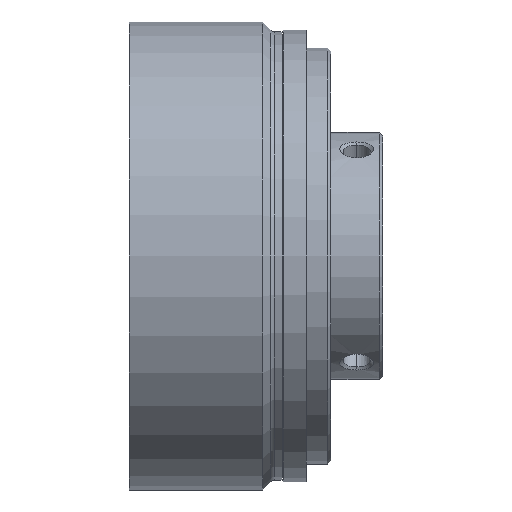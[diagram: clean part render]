
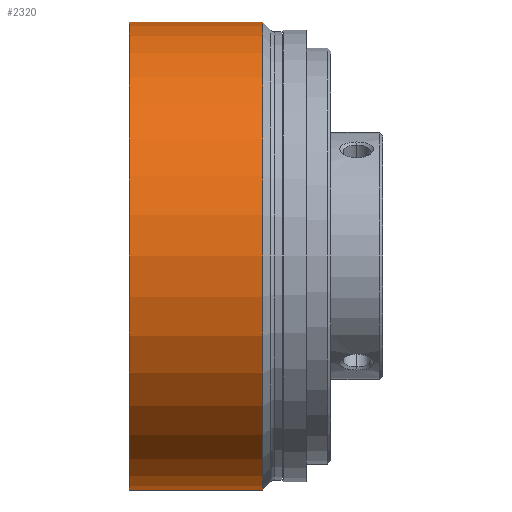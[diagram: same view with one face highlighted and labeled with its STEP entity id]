
A CAD part, front view. The second image highlights one B-rep face of the part: STEP entity #2320.
In plain terms, the highlighted cylindrical face has radius 36 mm (diameter 72 mm), a partial arc.
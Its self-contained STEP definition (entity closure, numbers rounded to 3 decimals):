
#243 = DIRECTION ( 'NONE',  ( -1., 0., 0. ) ) ;
#308 = CARTESIAN_POINT ( 'NONE',  ( 0., 0., 36. ) ) ;
#309 = AXIS2_PLACEMENT_3D ( 'NONE', #1792, #243, #2036 ) ;
#351 = CARTESIAN_POINT ( 'NONE',  ( 0., 0., -36. ) ) ;
#493 = AXIS2_PLACEMENT_3D ( 'NONE', #571, #2845, #1341 ) ;
#503 = FACE_OUTER_BOUND ( 'NONE', #1043, .T. ) ;
#571 = CARTESIAN_POINT ( 'NONE',  ( 0., 0., 0. ) ) ;
#846 = EDGE_CURVE ( 'NONE', #1172, #2497, #2835, .T. ) ;
#939 = CARTESIAN_POINT ( 'NONE',  ( 20.5, 0., 0. ) ) ;
#1043 = EDGE_LOOP ( 'NONE', ( #1556, #3217, #1328, #2458 ) ) ;
#1126 = EDGE_CURVE ( 'NONE', #2862, #2497, #3070, .T. ) ;
#1172 = VERTEX_POINT ( 'NONE', #351 ) ;
#1203 = DIRECTION ( 'NONE',  ( 0., 0., 1. ) ) ;
#1328 = ORIENTED_EDGE ( 'NONE', *, *, #1126, .T. ) ;
#1341 = DIRECTION ( 'NONE',  ( 0., 0., 1. ) ) ;
#1469 = VECTOR ( 'NONE', #1519, 1000. ) ;
#1519 = DIRECTION ( 'NONE',  ( -1., 0., 0. ) ) ;
#1556 = ORIENTED_EDGE ( 'NONE', *, *, #2705, .F. ) ;
#1648 = CARTESIAN_POINT ( 'NONE',  ( 0., 0., 36. ) ) ;
#1682 = VERTEX_POINT ( 'NONE', #2656 ) ;
#1792 = CARTESIAN_POINT ( 'NONE',  ( 0., 0., 0. ) ) ;
#2036 = DIRECTION ( 'NONE',  ( 0., 0., 1. ) ) ;
#2089 = DIRECTION ( 'NONE',  ( -1., 0., 0. ) ) ;
#2146 = LINE ( 'NONE', #3262, #1469 ) ;
#2320 = ADVANCED_FACE ( 'NONE', ( #503 ), #2448, .T. ) ;
#2416 = VECTOR ( 'NONE', #2089, 1000. ) ;
#2448 = CYLINDRICAL_SURFACE ( 'NONE', #493, 36. ) ;
#2458 = ORIENTED_EDGE ( 'NONE', *, *, #846, .F. ) ;
#2497 = VERTEX_POINT ( 'NONE', #1648 ) ;
#2551 = CIRCLE ( 'NONE', #2686, 36. ) ;
#2656 = CARTESIAN_POINT ( 'NONE',  ( 20.5, 0., -36. ) ) ;
#2686 = AXIS2_PLACEMENT_3D ( 'NONE', #939, #2704, #1203 ) ;
#2704 = DIRECTION ( 'NONE',  ( -1., 0., 0. ) ) ;
#2705 = EDGE_CURVE ( 'NONE', #1682, #1172, #2146, .T. ) ;
#2835 = CIRCLE ( 'NONE', #309, 36. ) ;
#2845 = DIRECTION ( 'NONE',  ( -1., 0., 0. ) ) ;
#2862 = VERTEX_POINT ( 'NONE', #3091 ) ;
#2999 = EDGE_CURVE ( 'NONE', #1682, #2862, #2551, .T. ) ;
#3070 = LINE ( 'NONE', #308, #2416 ) ;
#3091 = CARTESIAN_POINT ( 'NONE',  ( 20.5, 0., 36. ) ) ;
#3217 = ORIENTED_EDGE ( 'NONE', *, *, #2999, .T. ) ;
#3262 = CARTESIAN_POINT ( 'NONE',  ( 0., 0., -36. ) ) ;
